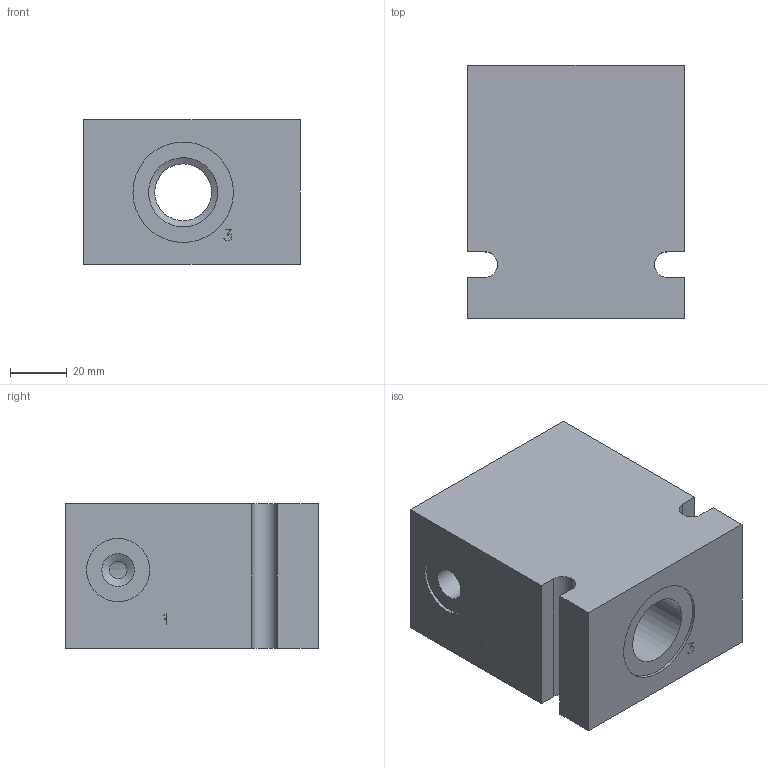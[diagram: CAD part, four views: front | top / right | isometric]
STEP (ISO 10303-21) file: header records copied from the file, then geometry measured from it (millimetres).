
FILE_DESCRIPTION( ( 'Unknown' ), '1' );
FILE_NAME( 'G:/Graphic Design/Graphic Design 2/Data Sheets/Delta Bodies/DRAWINGS/B-DTRD3.stp', 'Unknown', ( 'Unknown' ), ( 'Unknown' ), 'PSStep 16.0.42', 'Unknown', ' ' );
FILE_SCHEMA( ( 'AUTOMOTIVE_DESIGN { 1 0 10303 214 1 1 1 1 }' ) );
Length unit declared in the file: millimetre
Products named in the file (2): Assem1; B-DTRD3
Assembly tree (1 placements, depth 2):
  Assem1
    B-DTRD3
Bounding box: 76.2 x 88.9 x 50.8 mm (x, y, z)
Surface area: 40011.8 mm2 (no closed solid volume)
Topology: 0 solids, 129 shells, 129 faces, 622 edges, 587 vertices
Faces by surface type: plane 93, cylinder 26, cone 10
Full cylindrical faces by diameter (mm): 0.2 x3, 6.3 x1, 11.5 x2, 12 x1, 20 x1, 22.22 x1, 22.25 x1, 22.26 x1, 23.825 x1, 23.83 x1, 23.84 x1, 24.3 x4, 24.689 x1, 24.696 x2, 35.33 x2, 41.275 x1
Entity records: 6900 total; most frequent: CARTESIAN_POINT 1837, DIRECTION 660, ORIENTED_EDGE 570, EDGE_CURVE 570, VERTEX_POINT 570, B_SPLINE_CURVE_WITH_KNOTS 272, AXIS2_PLACEMENT_3D 231, LINE 198
